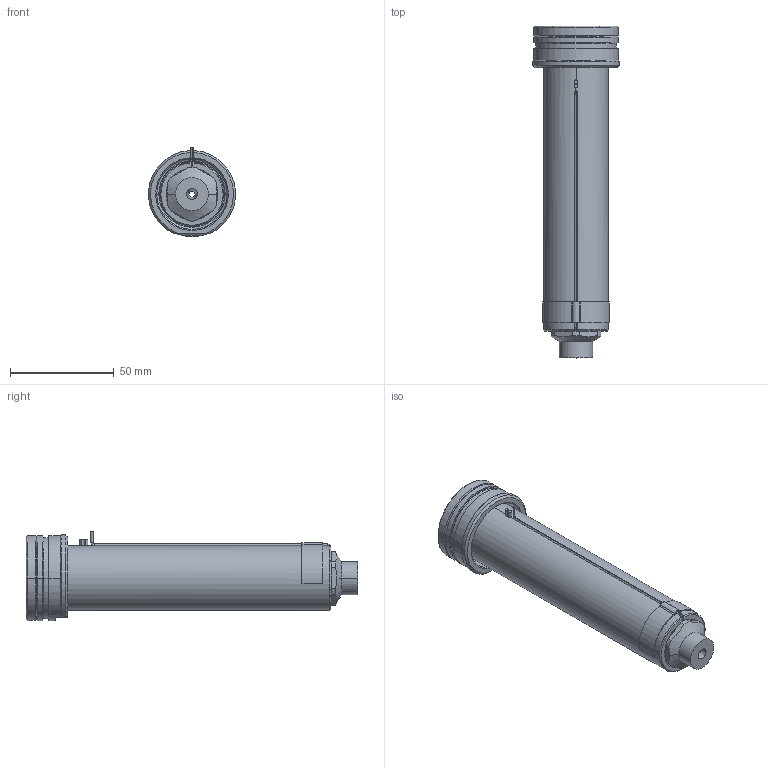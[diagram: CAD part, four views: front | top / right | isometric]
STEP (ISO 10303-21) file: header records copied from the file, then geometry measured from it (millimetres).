
FILE_DESCRIPTION((''),'2;1');
FILE_NAME('EO12_SG_SG_140_SW','2024-02-19T12:28:38',('sundharh'),(''),'CREO PARAMETRIC BY PTC INC, 2023154','CREO PARAMETRIC BY PTC INC, 2023154','');
FILE_SCHEMA(('CONFIG_CONTROL_DESIGN'));
Length unit declared in the file: millimetre
Products named in the file (1): EO12_SG_SG_140_SW
Bounding box: 41.85 x 160 x 43 mm (x, y, z)
Volume: 106826.5 mm3; surface area: 28421.6 mm2
Topology: 2 solids, 3 shells, 176 faces, 438 edges, 266 vertices
Faces by surface type: cylinder 65, plane 45, cone 33, torus 27, sphere 3, bspline 3
Entity records: 5920 total; most frequent: CARTESIAN_POINT 1640, DIRECTION 948, ORIENTED_EDGE 864, EDGE_CURVE 432, AXIS2_PLACEMENT_3D 396, VERTEX_POINT 266, CIRCLE 223, EDGE_LOOP 192
